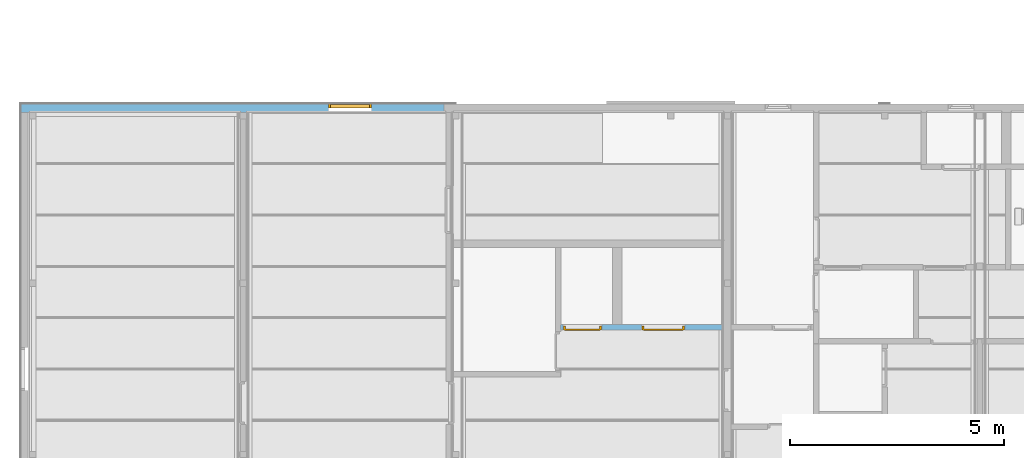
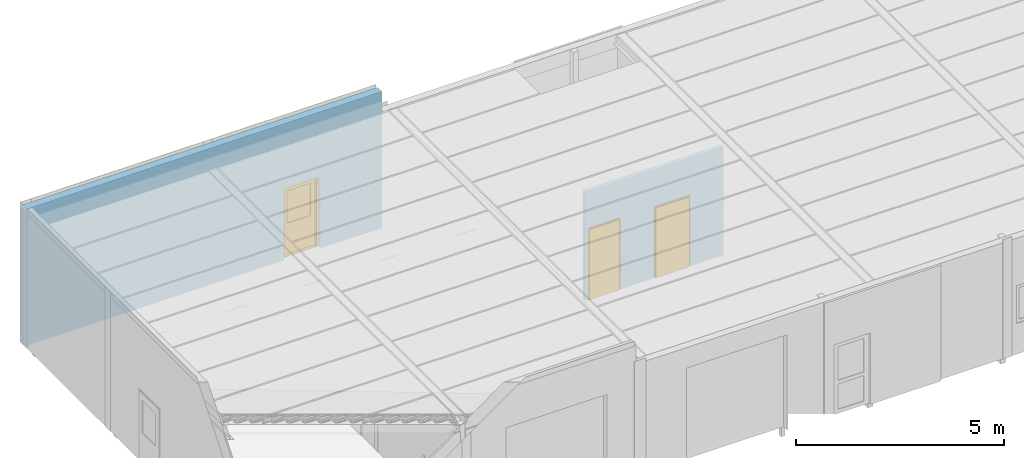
# One storey, part 22 of 45: 3 doors, 3 openings, plus 2 elements that do not belong to this part.
"""IFC2X3 building model written with IfcOpenShell, lengths in millimetres."""

import ifcopenshell
import ifcopenshell.guid

model = None  # the IFC model being written
_history = None  # IfcOwnerHistory: only IFC2X3 demands one
_inside = {}  # id of a spatial element -> (the spatial element, [elements in it])
_under = {}  # id of a project, library or spatial element -> (it, [spatial elements below it])
_declared = {}  # id of a project -> (the project, [libraries it declares])
_typed = {}  # id of a type object -> (the type object, [elements of that type])
_made_of = {}  # id of a material, layer set ... -> (it, [elements and type objects made of it])


def new_model(schema):
    """Start an empty IFC model of exactly this schema.

    Asked for "IFC4X3", IfcOpenShell would pick the latest addendum, in which some entities
    have other attributes; the version numbers below select the first issue.
    IFC2X3 requires an IfcOwnerHistory on every rooted entity: one is made here for all.
    """
    global model, _history
    if schema == "IFC4X3":
        model = ifcopenshell.file(schema_version=(4, 3, 0, 0))
    else:
        model = ifcopenshell.file(schema=schema)
    _inside.clear()
    _under.clear()
    _declared.clear()
    _typed.clear()
    _made_of.clear()
    _history = None
    if model.schema == "IFC2X3":
        org = make("IfcOrganization", Name="unknown")
        user = make(
            "IfcPersonAndOrganization",
            ThePerson=make("IfcPerson", FamilyName="unknown"),
            TheOrganization=org,
        )
        app = make(
            "IfcApplication",
            ApplicationDeveloper=org,
            Version="unknown",
            ApplicationFullName="unknown",
            ApplicationIdentifier="unknown",
        )
        _history = make(
            "IfcOwnerHistory",
            OwningUser=user,
            OwningApplication=app,
            ChangeAction="ADDED",
            CreationDate=0,
        )
    return model


def make(cls, **values):
    """One entity of the class cls with the attributes given. An attribute that is None is left unset."""
    return model.create_entity(
        cls, **{name: value for name, value in values.items() if value is not None}
    )


def entity(cls, *values):
    """Any entity or typed value of the class cls, its attributes in the order of the schema. None: left unset."""
    e = model.create_entity(cls)
    for i, value in enumerate(values):
        if value is not None:
            e[i] = value
    return e


def rooted(cls, **values):
    """An entity with a GlobalId (a new one), such as an element, a storey or a relation."""
    return make(cls, GlobalId=ifcopenshell.guid.new(), OwnerHistory=_history, **values)


def si_unit(unit_type, name, prefix=None):
    """IfcSIUnit, for example si_unit("LENGTHUNIT", "METRE", prefix="MILLI")."""
    return make("IfcSIUnit", UnitType=unit_type, Prefix=prefix, Name=name)


def converted_unit(unit_type, name, factor, base, dimensions=None, offset=None):
    """IfcConversionBasedUnit, such as the inch: factor (a typed value) times the base unit."""
    return make(
        "IfcConversionBasedUnit"
        if offset is None
        else "IfcConversionBasedUnitWithOffset",
        ConversionOffset=offset,
        Dimensions=None
        if dimensions is None
        else entity("IfcDimensionalExponents", *dimensions),
        UnitType=unit_type,
        Name=name,
        ConversionFactor=make(
            "IfcMeasureWithUnit", ValueComponent=factor, UnitComponent=base
        ),
    )


def assignment(units):
    """IfcUnitAssignment: the units of a project."""
    return None if units is None else make("IfcUnitAssignment", Units=units)


def point(xyz):
    """IfcCartesianPoint."""
    return None if xyz is None else make("IfcCartesianPoint", Coordinates=xyz)


def direction(xyz):
    """IfcDirection."""
    return None if xyz is None else make("IfcDirection", DirectionRatios=xyz)


def frame(location, z_axis=None, x_axis=None):
    """IfcAxis2Placement3D, a coordinate frame: its origin and axes. An axis left out is left unset."""
    return make(
        "IfcAxis2Placement3D",
        Location=point(location),
        Axis=direction(z_axis),
        RefDirection=direction(x_axis),
    )


def frame_2d(location, x_axis=None):
    """IfcAxis2Placement2D, a coordinate frame in the plane: its origin and x axis."""
    return make(
        "IfcAxis2Placement2D", Location=point(location), RefDirection=direction(x_axis)
    )


def origin():
    """The frame at (0, 0, 0) with its axes left unset."""
    return frame((0.0, 0.0, 0.0))


def origin_with_axes():
    """The frame at (0, 0, 0) with the z axis (0, 0, 1) and the x axis (1, 0, 0) written out."""
    return frame((0.0, 0.0, 0.0), z_axis=(0.0, 0.0, 1.0), x_axis=(1.0, 0.0, 0.0))


def place(relative_to, where):
    """IfcLocalPlacement: puts the frame where relative to a parent placement (None: the world)."""
    return make(
        "IfcLocalPlacement", PlacementRelTo=relative_to, RelativePlacement=where
    )


def context(
    kind, dimensions, precision=None, world=None, true_north=None, identifier=None
):
    """IfcGeometricRepresentationContext, for example the 3D "Model" context."""
    return make(
        "IfcGeometricRepresentationContext",
        ContextIdentifier=identifier,
        ContextType=kind,
        CoordinateSpaceDimension=dimensions,
        Precision=precision,
        WorldCoordinateSystem=world,
        TrueNorth=true_north,
    )


def subcontext(parent, identifier, kind, view, scale=None):
    """IfcGeometricRepresentationSubContext, for example "Body" below "Model"."""
    return make(
        "IfcGeometricRepresentationSubContext",
        ContextIdentifier=identifier,
        ContextType=kind,
        ParentContext=parent,
        TargetScale=scale,
        TargetView=view,
    )


def project(units=None, contexts=None):
    """IfcProject with its units and contexts."""
    return rooted(
        "IfcProject",
        Name="project",
        RepresentationContexts=contexts,
        UnitsInContext=assignment(units),
    )


def spatial(cls, under=None, at=None, **own):
    """A site, building, storey or space (cls), placed at a placement, below another one or the project."""
    s = rooted(cls, ObjectPlacement=at, **own)
    if under is not None:
        _under.setdefault(under.id(), (under, []))[1].append(s)
    return s


def polyline(points):
    """IfcPolyline through the points."""
    return make("IfcPolyline", Points=[point(p) for p in points])


def profile(cls, at=None, kind="AREA", **sizes):
    """A parametric profile (cls). Its sizes go by their IFC names, for example OverallWidth=200.0."""
    return make(cls, ProfileType=kind, Position=at, **sizes)


def rectangle(**sizes):
    """IfcRectangleProfileDef."""
    return profile("IfcRectangleProfileDef", **sizes)


def outline(outer, holes=None, kind="AREA"):
    """IfcArbitraryClosedProfileDef: a profile drawn as a closed curve; with holes, ...WithVoids."""
    if holes is None:
        return make("IfcArbitraryClosedProfileDef", ProfileType=kind, OuterCurve=outer)
    return make(
        "IfcArbitraryProfileDefWithVoids",
        ProfileType=kind,
        OuterCurve=outer,
        InnerCurves=holes,
    )


def extrude(swept, where, along, depth):
    """IfcExtrudedAreaSolid: the profile swept, set in the frame where, extruded along a direction by depth."""
    return make(
        "IfcExtrudedAreaSolid",
        SweptArea=swept,
        Position=where,
        ExtrudedDirection=direction(along),
        Depth=depth,
    )


def faces_of(points, faces, orient=None, outer=None):
    """IfcFace entities. A face is a list of loops; a loop is a list of indices into points, from 0.

    orient and outer hold one flag for each loop. By default every Orientation is true, the
    first loop of a face is its IfcFaceOuterBound and the others are IfcFaceBound.
    """
    made = []
    for i, loops in enumerate(faces):
        bounds = []
        for j, loop in enumerate(loops):
            is_outer = j == 0 if outer is None else outer[i][j]
            bounds.append(
                make(
                    "IfcFaceOuterBound" if is_outer else "IfcFaceBound",
                    Bound=make("IfcPolyLoop", Polygon=[points[k] for k in loop]),
                    Orientation=True if orient is None else orient[i][j],
                )
            )
        made.append(make("IfcFace", Bounds=bounds))
    return made


def faceted_brep(points, faces, orient=None, outer=None, voids=None):
    """IfcFacetedBrep: a solid bounded by flat faces; with voids (closed shells), ...WithVoids."""
    shared = [point(p) for p in points]
    hull = make("IfcClosedShell", CfsFaces=faces_of(shared, faces, orient, outer))
    if voids is None:
        return make("IfcFacetedBrep", Outer=hull)
    return make(
        "IfcFacetedBrepWithVoids",
        Outer=hull,
        Voids=[
            make(cls, CfsFaces=faces_of(shared, fs, o, b)) for cls, fs, o, b in voids
        ],
    )


def shape(context_of_items, identifier, shape_type, items):
    """IfcShapeRepresentation: the items that make up one representation, for example the "Body"."""
    return make(
        "IfcShapeRepresentation",
        ContextOfItems=context_of_items,
        RepresentationIdentifier=identifier,
        RepresentationType=shape_type,
        Items=items,
    )


def material(Name=None, Category=None):
    """IfcMaterial."""
    return make("IfcMaterial", Name=Name, Category=Category)


def layer(
    of_material, thickness, ventilated=None, Name=None, Category=None, Priority=None
):
    """IfcMaterialLayer: one layer of a wall or slab, of a material (None: an air gap)."""
    return make(
        "IfcMaterialLayer",
        Material=of_material,
        LayerThickness=thickness,
        IsVentilated=ventilated,
        Name=Name,
        Category=Category,
        Priority=Priority,
    )


def layer_set(layers, Name=None):
    """IfcMaterialLayerSet."""
    return make("IfcMaterialLayerSet", MaterialLayers=layers, LayerSetName=Name)


def layer_usage(for_layer_set, set_direction, sense, offset, extent=None):
    """IfcMaterialLayerSetUsage: how a layer set lies in its element."""
    return make(
        "IfcMaterialLayerSetUsage",
        ForLayerSet=for_layer_set,
        LayerSetDirection=set_direction,
        DirectionSense=sense,
        OffsetFromReferenceLine=offset,
        ReferenceExtent=extent,
    )


def made_of(thing, what):
    """Note that an element or type object is made of a material, layer set ...; save() writes the relation."""
    if what is not None:
        _made_of.setdefault(what.id(), (what, []))[1].append(thing)
    return thing


def type_object(cls, material=None, **own):
    """A type object (cls), such as IfcWallType, which elements share."""
    return made_of(rooted(cls, **own), material)


def element(
    cls,
    number,
    at=None,
    inside=None,
    cuts=None,
    type_object=None,
    material=None,
    context=None,
    identifier="Body",
    shape_type=None,
    held_by="IfcProductDefinitionShape",
    body=None,
    shapes=None,
    **own,
):
    """One element of the class cls, such as IfcWall. Its Tag is "e" and its number.

    at: its placement. inside: the storey or other place that contains it. cuts: it is an
    opening in that element (IfcRelVoidsElement). A single representation is given by context,
    identifier, shape_type and body (its items); several are given by shapes. held_by: the class
    of the entity that holds the representations. save() writes the other relations.
    """
    e = rooted(cls, Tag="e%d" % number, ObjectPlacement=at, **own)
    if body is not None:
        shapes = [shape(context, identifier, shape_type, body)]
    if shapes is not None:
        e.Representation = make(held_by, Representations=shapes)
    if inside is not None:
        _inside.setdefault(inside.id(), (inside, []))[1].append(e)
    if cuts is not None:
        rooted(
            "IfcRelVoidsElement", RelatingBuildingElement=cuts, RelatedOpeningElement=e
        )
    if type_object is not None:
        _typed.setdefault(type_object.id(), (type_object, []))[1].append(e)
    return made_of(e, material)


def fill(opening, filler):
    """IfcRelFillsElement: the door or window that sits in an opening."""
    return rooted(
        "IfcRelFillsElement",
        RelatingOpeningElement=opening,
        RelatedBuildingElement=filler,
    )


def aggregate(whole, parts):
    """IfcRelAggregates: a whole, such as a stair, and the parts it consists of."""
    return rooted("IfcRelAggregates", RelatingObject=whole, RelatedObjects=parts)


def save(model, path):
    """Write the relations noted so far, then the file.

    IfcRelAggregates (storeys below a building ...), IfcRelContainedInSpatialStructure (elements
    in a storey), IfcRelDefinesByType, IfcRelAssociatesMaterial and IfcRelDeclares: one each for
    every whole, place, type object, material and project.
    """
    for whole, parts in _under.values():
        aggregate(whole, parts)
    for where, things in _inside.values():
        rooted(
            "IfcRelContainedInSpatialStructure",
            RelatedElements=things,
            RelatingStructure=where,
        )
    for kind, things in _typed.values():
        rooted("IfcRelDefinesByType", RelatedObjects=things, RelatingType=kind)
    for what, things in _made_of.values():
        rooted("IfcRelAssociatesMaterial", RelatedObjects=things, RelatingMaterial=what)
    for by, libraries in _declared.values():
        rooted("IfcRelDeclares", RelatingContext=by, RelatedDefinitions=libraries)
    model.write(path)


model = new_model("IFC2X3")

# Units and contexts
model_context = context("Model", 3, precision=1e-05, world=origin())
plan_context = context("Plan", 3, precision=1e-05, world=origin())
body_context = subcontext(model_context, "Body", "Model", "MODEL_VIEW")
ifc_project = project(units=[si_unit("LENGTHUNIT", "METRE", prefix="MILLI"), converted_unit("PLANEANGLEUNIT", "DEGREE", entity("IfcPlaneAngleMeasure", 0.0174532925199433), si_unit("PLANEANGLEUNIT", "RADIAN"), dimensions=[0, 0, 0, 0, 0, 0, 0]), si_unit("AREAUNIT", "SQUARE_METRE"), si_unit("VOLUMEUNIT", "CUBIC_METRE")], contexts=[model_context, plan_context])

# Building, storey
building_placement = place(None, origin())
building = spatial("IfcBuilding", under=ifc_project, at=building_placement, Name="HEKF Administrasjonbygg", CompositionType="ELEMENT")
storey_placement = place(building_placement, frame((0.0, 0.0, 6500.0), z_axis=(0.0, 0.0, 1.0), x_axis=(1.0, 0.0, 0.0)))
storey = spatial("IfcBuildingStorey", under=building, at=storey_placement, Name="Plan 1", CompositionType="ELEMENT", Elevation=6500.0)

# Wall, opening, door
ifc_material_1 = material(Name="Paroc 200")
ifc_layer_1 = layer(ifc_material_1, 200.0)
ifc_layer_set_1 = layer_set([ifc_layer_1])
ifc_layer_usage_1 = layer_usage(ifc_layer_set_1, "AXIS2", "POSITIVE", 0.0)
wall_1_placement = place(storey_placement, frame((-199.9999999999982, 0.0, 0.0), z_axis=(0.0, 0.0, 1.0), x_axis=(1.0, 0.0, 0.0)))
wall_1 = element("IfcWallStandardCase", 1, at=wall_1_placement, inside=storey, material=ifc_layer_usage_1, context=body_context, shape_type="SweptSolid", body=[
    extrude(rectangle(XDim=9899.999999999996, YDim=200.0, at=frame_2d((4949.999999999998, 100.0), x_axis=(1.0, 0.0))), origin_with_axes(), (0.0, 0.0, 1.0), 4000.0),
])
opening_1_placement = place(wall_1_placement, frame((7194.999999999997, 0.0, 0.0), z_axis=(0.0, 1.0, 0.0), x_axis=(0.0, 0.0, 1.0)))
opening_1 = element("IfcOpeningElement", 2, at=opening_1_placement, cuts=wall_1, Name="D005", ObjectType="Opening", context=body_context, shape_type="SweptSolid", body=[
    extrude(rectangle(XDim=2100.0, YDim=1010.0, at=frame_2d((1050.0, 505.0), x_axis=(1.0, 0.0))), origin_with_axes(), (0.0, 0.0, 1.0), 200.0),
])
ifc_material_2 = material()
door_style_1 = type_object("IfcDoorStyle", Name="D005", ConstructionType="NOTDEFINED", OperationType="USERDEFINED", ParameterTakesPrecedence=False, Sizeable=False)
door_1_placement = place(opening_1_placement, frame((0.0, 0.0, 0.0), z_axis=(1.0, 0.0, 0.0), x_axis=(0.0, 1.0, 0.0)))
door_1 = element("IfcDoor", 3, at=door_1_placement, inside=storey, type_object=door_style_1, material=ifc_material_2, Name="D005", OverallHeight=2100.0, OverallWidth=1010.0, context=body_context, shape_type="Brep", body=[
    faceted_brep([(2.44929359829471e-14, 200.0000000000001, 2100.0), (2.449293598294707e-14, 199.9999999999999, -3.061616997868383e-15), (50.00000000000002, 199.9999999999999, -3.061616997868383e-15), (50.00000000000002, 200.0000000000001, 2100.0), (0.0, 99.99999999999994, 3.061616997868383e-15), (3.132589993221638e-29, 100.0000000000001, 2100.0), (50.0, 100.0000000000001, 2100.0), (50.0, 99.99999999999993, 3.061616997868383e-15), (2.449293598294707e-14, 199.9999999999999, -3.061616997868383e-15), (2.44929359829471e-14, 200.0000000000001, 2100.0), (3.132589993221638e-29, 100.0000000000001, 2100.0), (0.0, 99.99999999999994, 3.061616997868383e-15), (50.00000000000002, 199.9999999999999, -3.061616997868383e-15), (2.449293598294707e-14, 199.9999999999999, -3.061616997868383e-15), (0.0, 99.99999999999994, 3.061616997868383e-15), (50.0, 99.99999999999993, 3.061616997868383e-15), (50.00000000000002, 200.0000000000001, 2100.0), (50.00000000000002, 199.9999999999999, -3.061616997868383e-15), (50.0, 99.99999999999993, 3.061616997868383e-15), (50.0, 100.0000000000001, 2100.0), (2.44929359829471e-14, 200.0000000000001, 2100.0), (50.00000000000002, 200.0000000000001, 2100.0), (50.0, 100.0000000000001, 2100.0), (3.132589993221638e-29, 100.0000000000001, 2100.0)], [[[0, 1, 2, 3]], [[4, 5, 6, 7]], [[8, 9, 10, 11]], [[12, 13, 14, 15]], [[16, 17, 18, 19]], [[20, 21, 22, 23]]], orient=[[False], [False], [False], [False], [False], [False]]),
    faceted_brep([(960.0, 199.9999999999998, 2100.0), (960.0, 199.9999999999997, -3.061616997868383e-15), (1010.0, 199.9999999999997, -3.061616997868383e-15), (1010.0, 199.9999999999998, 2100.0), (960.0, 99.9999999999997, 3.061616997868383e-15), (960.0, 99.99999999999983, 2100.0), (1010.0, 99.99999999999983, 2100.0), (1010.0, 99.9999999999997, 3.061616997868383e-15), (960.0, 199.9999999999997, -3.061616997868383e-15), (960.0, 199.9999999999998, 2100.0), (960.0, 99.99999999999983, 2100.0), (960.0, 99.9999999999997, 3.061616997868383e-15), (1010.0, 199.9999999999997, -3.061616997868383e-15), (960.0, 199.9999999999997, -3.061616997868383e-15), (960.0, 99.9999999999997, 3.061616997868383e-15), (1010.0, 99.9999999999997, 3.061616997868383e-15), (1010.0, 199.9999999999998, 2100.0), (1010.0, 199.9999999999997, -3.061616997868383e-15), (1010.0, 99.9999999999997, 3.061616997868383e-15), (1010.0, 99.99999999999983, 2100.0), (960.0, 199.9999999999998, 2100.0), (1010.0, 199.9999999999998, 2100.0), (1010.0, 99.99999999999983, 2100.0), (960.0, 99.99999999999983, 2100.0)], [[[0, 1, 2, 3]], [[4, 5, 6, 7]], [[8, 9, 10, 11]], [[12, 13, 14, 15]], [[16, 17, 18, 19]], [[20, 21, 22, 23]]], orient=[[False], [False], [False], [False], [False], [False]]),
    faceted_brep([(50.00000000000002, 199.9999999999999, 9.999999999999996), (50.00000000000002, 199.9999999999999, -3.061616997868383e-15), (959.9999999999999, 199.9999999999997, -3.061616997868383e-15), (959.9999999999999, 199.9999999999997, 9.999999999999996), (50.0, 99.99999999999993, 3.061616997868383e-15), (50.0, 99.99999999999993, 10.0), (959.9999999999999, 99.9999999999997, 10.0), (959.9999999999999, 99.9999999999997, 3.061616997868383e-15), (50.00000000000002, 199.9999999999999, -3.061616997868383e-15), (50.00000000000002, 199.9999999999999, 9.999999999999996), (50.0, 99.99999999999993, 10.0), (50.0, 99.99999999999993, 3.061616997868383e-15), (959.9999999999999, 199.9999999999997, -3.061616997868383e-15), (50.00000000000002, 199.9999999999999, -3.061616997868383e-15), (50.0, 99.99999999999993, 3.061616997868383e-15), (959.9999999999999, 99.9999999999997, 3.061616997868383e-15), (959.9999999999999, 199.9999999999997, 9.999999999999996), (959.9999999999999, 199.9999999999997, -3.061616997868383e-15), (959.9999999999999, 99.9999999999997, 3.061616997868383e-15), (959.9999999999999, 99.9999999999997, 10.0), (50.00000000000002, 199.9999999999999, 9.999999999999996), (959.9999999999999, 199.9999999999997, 9.999999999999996), (959.9999999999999, 99.9999999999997, 10.0), (50.0, 99.99999999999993, 10.0)], [[[0, 1, 2, 3]], [[4, 5, 6, 7]], [[8, 9, 10, 11]], [[12, 13, 14, 15]], [[16, 17, 18, 19]], [[20, 21, 22, 23]]], orient=[[False], [False], [False], [False], [False], [False]]),
    faceted_brep([(50.00000000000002, 200.0000000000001, 2100.000000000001), (50.00000000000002, 200.0000000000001, 2050.000000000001), (959.9999999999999, 199.9999999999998, 2050.000000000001), (959.9999999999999, 199.9999999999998, 2100.000000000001), (50.0, 100.0000000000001, 2050.000000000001), (50.0, 100.0000000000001, 2100.000000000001), (959.9999999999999, 99.99999999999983, 2100.000000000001), (959.9999999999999, 99.99999999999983, 2050.000000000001), (50.00000000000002, 200.0000000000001, 2050.000000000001), (50.00000000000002, 200.0000000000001, 2100.000000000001), (50.0, 100.0000000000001, 2100.000000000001), (50.0, 100.0000000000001, 2050.000000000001), (959.9999999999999, 199.9999999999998, 2050.000000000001), (50.00000000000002, 200.0000000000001, 2050.000000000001), (50.0, 100.0000000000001, 2050.000000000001), (959.9999999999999, 99.99999999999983, 2050.000000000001), (959.9999999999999, 199.9999999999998, 2100.000000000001), (959.9999999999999, 199.9999999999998, 2050.000000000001), (959.9999999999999, 99.99999999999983, 2050.000000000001), (959.9999999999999, 99.99999999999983, 2100.000000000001), (50.00000000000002, 200.0000000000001, 2100.000000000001), (959.9999999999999, 199.9999999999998, 2100.000000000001), (959.9999999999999, 99.99999999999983, 2100.000000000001), (50.0, 100.0000000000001, 2100.000000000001)], [[[0, 1, 2, 3]], [[4, 5, 6, 7]], [[8, 9, 10, 11]], [[12, 13, 14, 15]], [[16, 17, 18, 19]], [[20, 21, 22, 23]]], orient=[[False], [False], [False], [False], [False], [False]]),
    faceted_brep([(30.00000000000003, 220.0000000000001, 2070.000000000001), (30.00000000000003, 219.9999999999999, 9.999999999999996), (980.0, 219.9999999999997, 9.999999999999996), (980.0, 219.9999999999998, 2070.000000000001), (180.0, 219.9999999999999, 910.0), (180.0, 220.0, 1860.0), (830.0, 219.9999999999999, 1860.0), (830.0, 219.9999999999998, 910.0), (30.00000000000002, 179.9999999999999, 9.999999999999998), (30.00000000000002, 180.0000000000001, 2070.000000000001), (980.0, 179.9999999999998, 2070.000000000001), (980.0, 179.9999999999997, 9.999999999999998), (180.0, 180.0, 1860.0), (180.0, 179.9999999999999, 910.0), (830.0, 179.9999999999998, 910.0), (830.0, 179.9999999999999, 1860.0), (30.00000000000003, 219.9999999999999, 9.999999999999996), (30.00000000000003, 220.0000000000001, 2070.000000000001), (30.00000000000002, 180.0000000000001, 2070.000000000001), (30.00000000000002, 179.9999999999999, 9.999999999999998), (980.0, 219.9999999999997, 9.999999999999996), (30.00000000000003, 219.9999999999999, 9.999999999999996), (30.00000000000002, 179.9999999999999, 9.999999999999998), (980.0, 179.9999999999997, 9.999999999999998), (980.0, 219.9999999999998, 2070.000000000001), (980.0, 219.9999999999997, 9.999999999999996), (980.0, 179.9999999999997, 9.999999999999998), (980.0, 179.9999999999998, 2070.000000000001), (30.00000000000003, 220.0000000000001, 2070.000000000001), (980.0, 219.9999999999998, 2070.000000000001), (980.0, 179.9999999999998, 2070.000000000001), (30.00000000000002, 180.0000000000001, 2070.000000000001), (180.0, 219.9999999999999, 910.0), (180.0, 179.9999999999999, 910.0), (180.0, 180.0, 1860.0), (180.0, 220.0, 1860.0), (830.0, 219.9999999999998, 910.0), (830.0, 179.9999999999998, 910.0), (180.0, 179.9999999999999, 910.0), (180.0, 219.9999999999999, 910.0), (830.0, 219.9999999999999, 1860.0), (830.0, 179.9999999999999, 1860.0), (830.0, 179.9999999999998, 910.0), (830.0, 219.9999999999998, 910.0), (180.0, 220.0, 1860.0), (180.0, 180.0, 1860.0), (830.0, 179.9999999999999, 1860.0), (830.0, 219.9999999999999, 1860.0)], [[[0, 1, 2, 3], [4, 5, 6, 7]], [[8, 9, 10, 11], [12, 13, 14, 15]], [[16, 17, 18, 19]], [[20, 21, 22, 23]], [[24, 25, 26, 27]], [[28, 29, 30, 31]], [[32, 33, 34, 35]], [[36, 37, 38, 39]], [[40, 41, 42, 43]], [[44, 45, 46, 47]]], orient=[[False, False], [False, False], [False], [False], [False], [False], [False], [False], [False], [False]]),
    faceted_brep([(180.0, 199.9999999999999, 910.0), (830.0, 199.9999999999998, 910.0), (830.0, 199.9999999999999, 1860.0), (180.0, 200.0, 1860.0), (180.0, 198.9999999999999, 910.0), (180.0, 199.0, 1860.0), (830.0, 198.9999999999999, 1860.0), (830.0, 198.9999999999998, 910.0), (180.0, 199.9999999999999, 910.0), (180.0, 198.9999999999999, 910.0), (830.0, 198.9999999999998, 910.0), (830.0, 199.9999999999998, 910.0), (830.0, 199.9999999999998, 910.0), (830.0, 198.9999999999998, 910.0), (830.0, 198.9999999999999, 1860.0), (830.0, 199.9999999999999, 1860.0), (830.0, 199.9999999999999, 1860.0), (830.0, 198.9999999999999, 1860.0), (180.0, 199.0, 1860.0), (180.0, 200.0, 1860.0), (180.0, 200.0, 1860.0), (180.0, 199.0, 1860.0), (180.0, 198.9999999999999, 910.0), (180.0, 199.9999999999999, 910.0)], [[[0, 1, 2, 3]], [[4, 5, 6, 7]], [[8, 9, 10, 11]], [[12, 13, 14, 15]], [[16, 17, 18, 19]], [[20, 21, 22, 23]]], orient=[[False], [False], [False], [False], [False], [False]]),
])
fill(opening_1, door_1)

# Wall, openings, doors
ifc_material_3 = material(Name="gips")
ifc_layer_2 = layer(ifc_material_3, 13.0)
ifc_material_4 = material(Name="riegel stål 100")
ifc_layer_3 = layer(ifc_material_4, 100.0)
ifc_material_5 = material(Name="gips")
ifc_layer_4 = layer(ifc_material_5, 13.0)
ifc_layer_set_2 = layer_set([ifc_layer_2, ifc_layer_3, ifc_layer_4])
ifc_layer_usage_2 = layer_usage(ifc_layer_set_2, "AXIS2", "POSITIVE", 0.0)
wall_2_placement = place(storey_placement, frame((18337.0, -4961.000000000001, 0.0), z_axis=(0.0, 0.0, 1.0), x_axis=(-1.0, 3.078277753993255e-16, 0.0)))
wall_2 = element("IfcWallStandardCase", 4, at=wall_2_placement, inside=storey, material=ifc_layer_usage_2, context=body_context, shape_type="SweptSolid", body=[
    extrude(outline(polyline([(2100.0, -2.630563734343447e-13), (5909.113955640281, 0.0), (5909.113955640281, 13.0), (5922.113955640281, 13.0), (5922.113955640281, 113.0), (5909.113955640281, 113.0), (5909.113955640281, 126.0), (2100.0, 125.9999999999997), (2100.0, -2.630563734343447e-13)])), origin_with_axes(), (0.0, 0.0, 1.0), 3170.0),
])
opening_2_placement = place(wall_2_placement, frame((3009.560025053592, -9.094947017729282e-13, 0.0), z_axis=(0.0, 1.0, 0.0), x_axis=(0.0, 0.0, 1.0)))
opening_2 = element("IfcOpeningElement", 5, at=opening_2_placement, cuts=wall_2, Name="garasjeport med glassfelter:45x6", ObjectType="Opening", context=body_context, shape_type="SweptSolid", body=[
    extrude(rectangle(XDim=2100.0, YDim=1010.0, at=frame_2d((1050.0, 505.0), x_axis=(1.0, 0.0))), origin_with_axes(), (0.0, 0.0, 1.0), 126.0),
])
opening_3_placement = place(wall_2_placement, frame((4948.076674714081, -1.818989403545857e-12, 0.0), z_axis=(0.0, 1.0, 0.0), x_axis=(0.0, 0.0, 1.0)))
opening_3 = element("IfcOpeningElement", 6, at=opening_3_placement, cuts=wall_2, Name="D010", ObjectType="Opening", context=body_context, shape_type="SweptSolid", body=[
    extrude(rectangle(XDim=2110.0, YDim=910.0, at=frame_2d((1055.0, 455.0), x_axis=(1.0, 0.0))), origin_with_axes(), (0.0, 0.0, 1.0), 126.0),
])
ifc_material_6 = material()
door_style_2 = type_object("IfcDoorStyle", Name="D011", ConstructionType="NOTDEFINED", OperationType="USERDEFINED", ParameterTakesPrecedence=False, Sizeable=False)
door_2_placement = place(opening_2_placement, frame((0.0, 0.0, 0.0), z_axis=(1.0, 0.0, 0.0), x_axis=(0.0, 1.0, 0.0)))
door_2 = element("IfcDoor", 7, at=door_2_placement, inside=storey, type_object=door_style_2, material=ifc_material_6, Name="D011", OverallHeight=2100.0, OverallWidth=1010.0, context=body_context, shape_type="Brep", body=[
    faceted_brep([(1000.0, 122.0, 2080.0), (950.0, 122.0, 2080.0), (950.0, 121.9999999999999, -2.816687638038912e-15), (1000.0, 121.9999999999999, -2.816687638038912e-15), (1000.0, 30.00000000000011, 2.816687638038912e-15), (950.0, 30.0000000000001, 2.816687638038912e-15), (950.0, 30.00000000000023, 2080.0), (1000.0, 30.00000000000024, 2080.0), (1000.0, 121.9999999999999, -2.816687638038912e-15), (1000.0, 30.00000000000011, 2.816687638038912e-15), (1000.0, 30.00000000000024, 2080.0), (1000.0, 122.0, 2080.0), (950.0, 121.9999999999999, -2.816687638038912e-15), (950.0, 30.0000000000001, 2.816687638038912e-15), (1000.0, 30.00000000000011, 2.816687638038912e-15), (1000.0, 121.9999999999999, -2.816687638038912e-15), (950.0, 122.0, 2080.0), (950.0, 30.00000000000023, 2080.0), (950.0, 30.0000000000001, 2.816687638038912e-15), (950.0, 121.9999999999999, -2.816687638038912e-15), (1000.0, 122.0, 2080.0), (1000.0, 30.00000000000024, 2080.0), (950.0, 30.00000000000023, 2080.0), (950.0, 122.0, 2080.0)], [[[0, 1, 2, 3]], [[4, 5, 6, 7]], [[8, 9, 10, 11]], [[12, 13, 14, 15]], [[16, 17, 18, 19]], [[20, 21, 22, 23]]], orient=[[False], [False], [False], [False], [False], [False]]),
    faceted_brep([(60.0, 121.9999999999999, 2080.0), (10.0, 121.9999999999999, 2080.0), (10.0, 121.9999999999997, -2.816687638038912e-15), (60.0, 121.9999999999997, -2.816687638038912e-15), (60.0, 29.99999999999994, 2.816687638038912e-15), (10.0, 29.99999999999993, 2.816687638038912e-15), (10.0, 30.00000000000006, 2080.0), (60.0, 30.00000000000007, 2080.0), (60.0, 121.9999999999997, -2.816687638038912e-15), (60.0, 29.99999999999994, 2.816687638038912e-15), (60.0, 30.00000000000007, 2080.0), (60.0, 121.9999999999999, 2080.0), (10.0, 121.9999999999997, -2.816687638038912e-15), (10.0, 29.99999999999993, 2.816687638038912e-15), (60.0, 29.99999999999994, 2.816687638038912e-15), (60.0, 121.9999999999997, -2.816687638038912e-15), (10.0, 121.9999999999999, 2080.0), (10.0, 30.00000000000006, 2080.0), (10.0, 29.99999999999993, 2.816687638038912e-15), (10.0, 121.9999999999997, -2.816687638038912e-15), (60.0, 121.9999999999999, 2080.0), (60.0, 30.00000000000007, 2080.0), (10.0, 30.00000000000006, 2080.0), (10.0, 121.9999999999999, 2080.0)], [[[0, 1, 2, 3]], [[4, 5, 6, 7]], [[8, 9, 10, 11]], [[12, 13, 14, 15]], [[16, 17, 18, 19]], [[20, 21, 22, 23]]], orient=[[False], [False], [False], [False], [False], [False]]),
    faceted_brep([(950.0, 122.0, 2080.0), (60.00000000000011, 121.9999999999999, 2080.0), (60.00000000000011, 121.9999999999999, 2030.0), (950.0, 122.0, 2030.0), (950.0, 30.00000000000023, 2030.0), (60.00000000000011, 30.00000000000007, 2030.0), (60.00000000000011, 30.00000000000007, 2080.000000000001), (950.0, 30.00000000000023, 2080.000000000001), (950.0, 122.0, 2030.0), (950.0, 30.00000000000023, 2030.0), (950.0, 30.00000000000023, 2080.000000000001), (950.0, 122.0, 2080.0), (60.00000000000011, 121.9999999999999, 2030.0), (60.00000000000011, 30.00000000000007, 2030.0), (950.0, 30.00000000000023, 2030.0), (950.0, 122.0, 2030.0), (60.00000000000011, 121.9999999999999, 2080.0), (60.00000000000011, 30.00000000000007, 2080.000000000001), (60.00000000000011, 30.00000000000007, 2030.0), (60.00000000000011, 121.9999999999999, 2030.0), (950.0, 122.0, 2080.0), (950.0, 30.00000000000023, 2080.000000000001), (60.00000000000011, 30.00000000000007, 2080.000000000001), (60.00000000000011, 121.9999999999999, 2080.0)], [[[0, 1, 2, 3]], [[4, 5, 6, 7]], [[8, 9, 10, 11]], [[12, 13, 14, 15]], [[16, 17, 18, 19]], [[20, 21, 22, 23]]], orient=[[False], [False], [False], [False], [False], [False]]),
    faceted_brep([(970.0, 142.0, 2050.000000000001), (40.00000000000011, 141.9999999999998, 2050.000000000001), (40.00000000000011, 141.9999999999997, -4.041334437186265e-15), (970.0, 141.9999999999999, -4.041334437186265e-15), (970.0, 101.9999999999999, -1.592040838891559e-15), (40.00000000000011, 101.9999999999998, -1.592040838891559e-15), (40.00000000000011, 101.9999999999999, 2050.000000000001), (970.0, 102.0000000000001, 2050.000000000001), (970.0, 141.9999999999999, -4.041334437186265e-15), (970.0, 101.9999999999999, -1.592040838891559e-15), (970.0, 102.0000000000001, 2050.000000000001), (970.0, 142.0, 2050.000000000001), (40.00000000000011, 141.9999999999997, -4.041334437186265e-15), (40.00000000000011, 101.9999999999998, -1.592040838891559e-15), (970.0, 101.9999999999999, -1.592040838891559e-15), (970.0, 141.9999999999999, -4.041334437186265e-15), (40.00000000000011, 141.9999999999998, 2050.000000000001), (40.00000000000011, 101.9999999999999, 2050.000000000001), (40.00000000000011, 101.9999999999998, -1.592040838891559e-15), (40.00000000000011, 141.9999999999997, -4.041334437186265e-15), (970.0, 142.0, 2050.000000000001), (970.0, 102.0000000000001, 2050.000000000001), (40.00000000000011, 101.9999999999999, 2050.000000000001), (40.00000000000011, 141.9999999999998, 2050.000000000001)], [[[0, 1, 2, 3]], [[4, 5, 6, 7]], [[8, 9, 10, 11]], [[12, 13, 14, 15]], [[16, 17, 18, 19]], [[20, 21, 22, 23]]], orient=[[False], [False], [False], [False], [False], [False]]),
])
fill(opening_2, door_2)
ifc_material_7 = material()
door_style_3 = type_object("IfcDoorStyle", Name="D010", ConstructionType="NOTDEFINED", OperationType="USERDEFINED", ParameterTakesPrecedence=False, Sizeable=False)
door_3_placement = place(opening_3_placement, frame((0.0, 0.0, 0.0), z_axis=(1.0, 0.0, 0.0), x_axis=(0.0, 1.0, 0.0)))
door_3 = element("IfcDoor", 8, at=door_3_placement, inside=storey, type_object=door_style_3, material=ifc_material_7, Name="D010", OverallHeight=2110.0, OverallWidth=910.0, context=body_context, shape_type="Brep", body=[
    faceted_brep([(900.0, 122.000000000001, 2090.0), (850.0, 122.000000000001, 2090.0), (850.0, 122.0000000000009, -2.816687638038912e-15), (900.0, 122.0000000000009, -2.816687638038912e-15), (900.0, 30.00000000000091, 2.816687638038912e-15), (850.0, 30.0000000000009, 2.816687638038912e-15), (850.0, 30.00000000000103, 2090.0), (900.0, 30.00000000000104, 2090.0), (900.0, 122.0000000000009, -2.816687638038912e-15), (900.0, 30.00000000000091, 2.816687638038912e-15), (900.0, 30.00000000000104, 2090.0), (900.0, 122.000000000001, 2090.0), (850.0, 122.0000000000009, -2.816687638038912e-15), (850.0, 30.0000000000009, 2.816687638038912e-15), (900.0, 30.00000000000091, 2.816687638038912e-15), (900.0, 122.0000000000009, -2.816687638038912e-15), (850.0, 122.000000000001, 2090.0), (850.0, 30.00000000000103, 2090.0), (850.0, 30.0000000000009, 2.816687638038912e-15), (850.0, 122.0000000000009, -2.816687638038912e-15), (900.0, 122.000000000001, 2090.0), (900.0, 30.00000000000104, 2090.0), (850.0, 30.00000000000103, 2090.0), (850.0, 122.000000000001, 2090.0)], [[[0, 1, 2, 3]], [[4, 5, 6, 7]], [[8, 9, 10, 11]], [[12, 13, 14, 15]], [[16, 17, 18, 19]], [[20, 21, 22, 23]]], orient=[[False], [False], [False], [False], [False], [False]]),
    faceted_brep([(60.0, 122.0000000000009, 2090.0), (10.0, 122.0000000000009, 2090.0), (10.0, 122.0000000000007, -2.816687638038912e-15), (60.0, 122.0000000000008, -2.816687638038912e-15), (60.0, 30.00000000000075, 2.816687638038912e-15), (10.0, 30.00000000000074, 2.816687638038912e-15), (10.0, 30.00000000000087, 2090.0), (60.0, 30.00000000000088, 2090.0), (60.0, 122.0000000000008, -2.816687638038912e-15), (60.0, 30.00000000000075, 2.816687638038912e-15), (60.0, 30.00000000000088, 2090.0), (60.0, 122.0000000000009, 2090.0), (10.0, 122.0000000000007, -2.816687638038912e-15), (10.0, 30.00000000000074, 2.816687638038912e-15), (60.0, 30.00000000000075, 2.816687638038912e-15), (60.0, 122.0000000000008, -2.816687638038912e-15), (10.0, 122.0000000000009, 2090.0), (10.0, 30.00000000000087, 2090.0), (10.0, 30.00000000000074, 2.816687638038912e-15), (10.0, 122.0000000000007, -2.816687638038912e-15), (60.0, 122.0000000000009, 2090.0), (60.0, 30.00000000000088, 2090.0), (10.0, 30.00000000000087, 2090.0), (10.0, 122.0000000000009, 2090.0)], [[[0, 1, 2, 3]], [[4, 5, 6, 7]], [[8, 9, 10, 11]], [[12, 13, 14, 15]], [[16, 17, 18, 19]], [[20, 21, 22, 23]]], orient=[[False], [False], [False], [False], [False], [False]]),
    faceted_brep([(850.0, 122.000000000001, 2090.0), (60.00000000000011, 122.0000000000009, 2090.0), (60.00000000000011, 122.0000000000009, 2040.0), (850.0, 122.000000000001, 2040.0), (850.0, 30.00000000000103, 2040.0), (60.00000000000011, 30.00000000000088, 2040.0), (60.00000000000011, 30.00000000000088, 2090.0), (850.0, 30.00000000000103, 2090.0), (850.0, 122.000000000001, 2040.0), (850.0, 30.00000000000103, 2040.0), (850.0, 30.00000000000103, 2090.0), (850.0, 122.000000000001, 2090.0), (60.00000000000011, 122.0000000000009, 2040.0), (60.00000000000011, 30.00000000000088, 2040.0), (850.0, 30.00000000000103, 2040.0), (850.0, 122.000000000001, 2040.0), (60.00000000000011, 122.0000000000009, 2090.0), (60.00000000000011, 30.00000000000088, 2090.0), (60.00000000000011, 30.00000000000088, 2040.0), (60.00000000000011, 122.0000000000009, 2040.0), (850.0, 122.000000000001, 2090.0), (850.0, 30.00000000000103, 2090.0), (60.00000000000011, 30.00000000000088, 2090.0), (60.00000000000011, 122.0000000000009, 2090.0)], [[[0, 1, 2, 3]], [[4, 5, 6, 7]], [[8, 9, 10, 11]], [[12, 13, 14, 15]], [[16, 17, 18, 19]], [[20, 21, 22, 23]]], orient=[[False], [False], [False], [False], [False], [False]]),
    faceted_brep([(870.0, 142.000000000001, 2060.0), (40.0, 142.0000000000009, 2060.0), (40.0, 142.0000000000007, -4.041334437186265e-15), (870.0, 142.0000000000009, -4.041334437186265e-15), (870.0, 102.0000000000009, -1.592040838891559e-15), (40.0, 102.0000000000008, -1.592040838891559e-15), (40.0, 102.0000000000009, 2060.0), (870.0, 102.000000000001, 2060.0), (870.0, 142.0000000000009, -4.041334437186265e-15), (870.0, 102.0000000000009, -1.592040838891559e-15), (870.0, 102.000000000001, 2060.0), (870.0, 142.000000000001, 2060.0), (40.0, 142.0000000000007, -4.041334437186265e-15), (40.0, 102.0000000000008, -1.592040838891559e-15), (870.0, 102.0000000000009, -1.592040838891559e-15), (870.0, 142.0000000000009, -4.041334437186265e-15), (40.0, 142.0000000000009, 2060.0), (40.0, 102.0000000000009, 2060.0), (40.0, 102.0000000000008, -1.592040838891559e-15), (40.0, 142.0000000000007, -4.041334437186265e-15), (870.0, 142.000000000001, 2060.0), (870.0, 102.000000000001, 2060.0), (40.0, 102.0000000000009, 2060.0), (40.0, 142.0000000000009, 2060.0)], [[[0, 1, 2, 3]], [[4, 5, 6, 7]], [[8, 9, 10, 11]], [[12, 13, 14, 15]], [[16, 17, 18, 19]], [[20, 21, 22, 23]]], orient=[[False], [False], [False], [False], [False], [False]]),
])
fill(opening_3, door_3)

save(model, "model.ifc")
